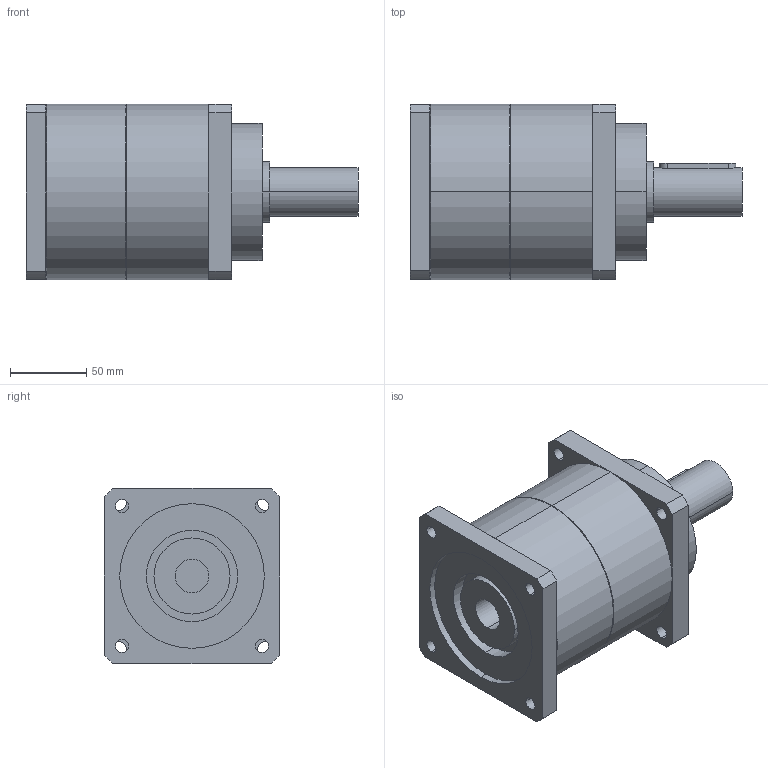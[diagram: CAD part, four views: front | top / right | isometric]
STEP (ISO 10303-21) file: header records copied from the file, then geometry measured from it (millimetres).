
FILE_DESCRIPTION(('CoCreate Modeling STEP Export'),'2;1');
FILE_NAME('GPT120_ig-3-4-5-7-10_32_B5A_22_P18.stp','2015-02-04T16:59:33',(''),(''),'CoCreate Modeling STEP processor for AP214 (Solid Model)','CoCreate Modeling 16.00C 25-Feb-2009 (C) Parametric Technology GmbH','');
FILE_SCHEMA(('AUTOMOTIVE_DESIGN { 1 0 10303 214 1 1 1 1 }'));
Length unit declared in the file: millimetre
Products named in the file (2): GPT120_ig-3-4-5-7-10_32_B5A_22_P18
Assembly tree (1 placements, depth 2):
  GPT120_ig-3-4-5-7-10_32_B5A_22_P18
    GPT120_ig-3-4-5-7-10_32_B5A_22_P18
Bounding box: 218 x 115 x 115 mm (x, y, z)
Volume: 1588713.1 mm3; surface area: 107029.7 mm2
Topology: 1 solids, 1 shells, 77 faces, 204 edges, 139 vertices
Faces by surface type: cylinder 46, plane 27, cone 4
Entity records: 2568 total; most frequent: CARTESIAN_POINT 759, ORIENTED_EDGE 408, DIRECTION 320, EDGE_CURVE 204, VERTEX_POINT 139, AXIS2_PLACEMENT_3D 118, EDGE_LOOP 103, VECTOR 84
